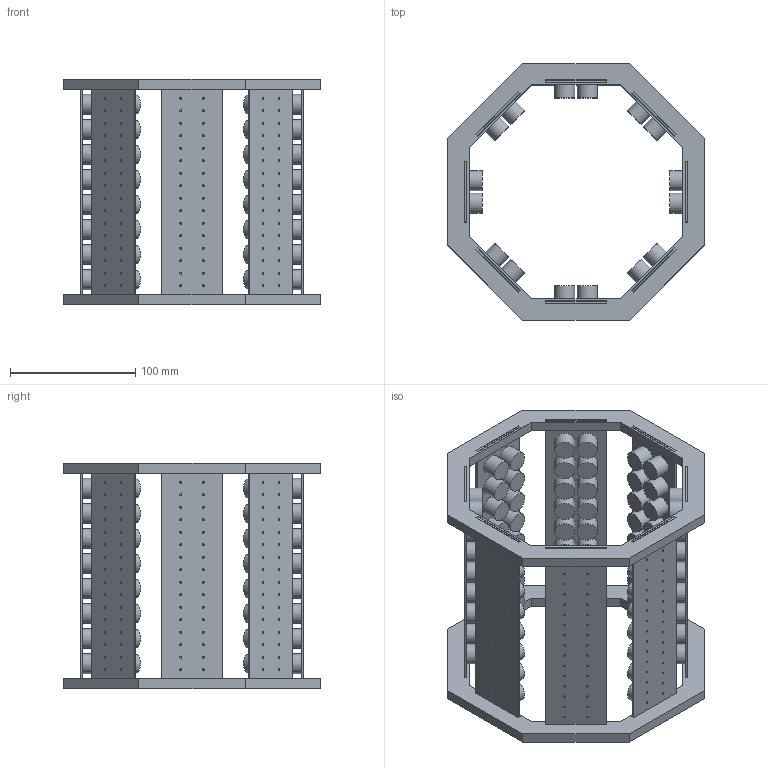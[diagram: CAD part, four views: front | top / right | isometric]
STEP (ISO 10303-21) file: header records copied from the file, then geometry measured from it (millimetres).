
FILE_DESCRIPTION(('Open CASCADE Model'),'2;1');
FILE_NAME('Open CASCADE Shape Model','2026-10-05T11:00:32',('Author'),( 'Open CASCADE'),'Open CASCADE STEP processor 7.9','Open CASCADE 7.9' ,'Unknown');
FILE_SCHEMA(('AUTOMOTIVE_DESIGN { 1 0 10303 214 1 1 1 1 }'));
Length unit declared in the file: millimetre
Products named in the file (12): tunnel_8faces; panel_8f_01; pcb_8f; tx_8f_t1; panel_8f_02; panel_8f_03; panel_8f_04; panel_8f_05; panel_8f_06; panel_8f_07; panel_8f_08; ring_8f_lower
Assembly tree (146 placements, depth 3):
  tunnel_8faces
    panel_8f_01
      pcb_8f
      tx_8f_t1  x16
    panel_8f_02
      pcb_8f
      tx_8f_t1  x16
    panel_8f_03
      pcb_8f
      tx_8f_t1  x16
    panel_8f_04
      pcb_8f
      tx_8f_t1  x16
    panel_8f_05
      pcb_8f
      tx_8f_t1  x16
    panel_8f_06
      pcb_8f
      tx_8f_t1  x16
    panel_8f_07
      pcb_8f
      tx_8f_t1  x16
    panel_8f_08
      pcb_8f
      tx_8f_t1  x16
    ring_8f_lower  x2
Bounding box: 205 x 205 x 180 mm (x, y, z)
Volume: 586776 mm3; surface area: 349287.6 mm2
Topology: 138 solids, 138 shells, 940 faces, 1992 edges, 1328 vertices
Faces by surface type: cylinder 536, plane 404
Full cylindrical faces by diameter (mm): 0.8 x16, 1 x104, 1.5 x256, 3.2 x32, 16 x128
Entity records: 9353 total; most frequent: CARTESIAN_POINT 2173, DIRECTION 1292, ORIENTED_EDGE 624, PCURVE 624, DEFINITIONAL_REPRESENTATION 624, LINE 568, VECTOR 568, AXIS2_PLACEMENT_3D 361
